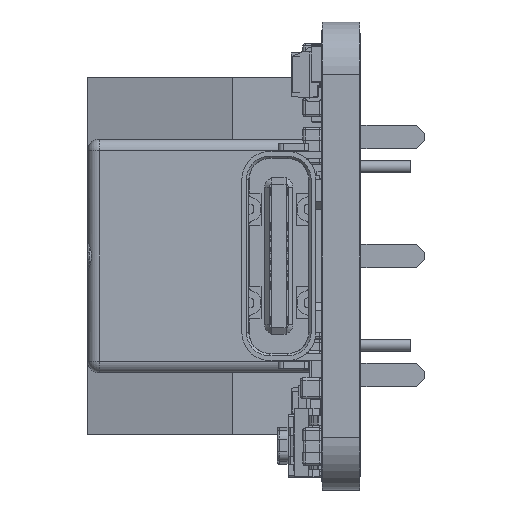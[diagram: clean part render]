
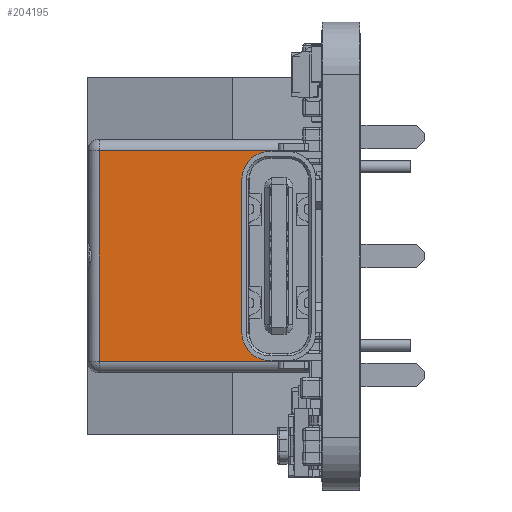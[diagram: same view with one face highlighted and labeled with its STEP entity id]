
A CAD part, left-side view. The second image highlights one B-rep face of the part: STEP entity #204195.
In plain terms, the highlighted planar face has unit normal (-1, 0, 0).
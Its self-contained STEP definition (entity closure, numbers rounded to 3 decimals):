
#2351 = DIRECTION ( 'NONE',  ( 0., 0., 1. ) ) ;
#2375 = CARTESIAN_POINT ( 'NONE',  ( -10., 0., -5. ) ) ;
#3591 = VECTOR ( 'NONE', #2351, 1000. ) ;
#3665 = LINE ( 'NONE', #2375, #3591 ) ;
#11222 = VECTOR ( 'NONE', #13834, 1000. ) ;
#11253 = LINE ( 'NONE', #13833, #11222 ) ;
#12562 = VECTOR ( 'NONE', #14887, 1000. ) ;
#12571 = LINE ( 'NONE', #14872, #12562 ) ;
#13833 = CARTESIAN_POINT ( 'NONE',  ( -10., 10., -4.5 ) ) ;
#13834 = DIRECTION ( 'NONE',  ( 0., -1., 0. ) ) ;
#14872 = CARTESIAN_POINT ( 'NONE',  ( -10., 9.5, -5. ) ) ;
#14887 = DIRECTION ( 'NONE',  ( 0., 0., -1. ) ) ;
#15663 = CARTESIAN_POINT ( 'NONE',  ( -10., 10., 4.5 ) ) ;
#15665 = DIRECTION ( 'NONE',  ( 0., 1., 0. ) ) ;
#28220 = LINE ( 'NONE', #15663, #28233 ) ;
#28233 = VECTOR ( 'NONE', #15665, 1000. ) ;
#45804 = VERTEX_POINT ( 'NONE', #124262 ) ;
#45860 = VERTEX_POINT ( 'NONE', #124341 ) ;
#45867 = VERTEX_POINT ( 'NONE', #124310 ) ;
#45926 = VERTEX_POINT ( 'NONE', #124390 ) ;
#65064 = EDGE_LOOP ( 'NONE', ( #181113, #180999, #181052, #180904 ) ) ;
#124262 = CARTESIAN_POINT ( 'NONE',  ( -10., 9.5, 4.5 ) ) ;
#124310 = CARTESIAN_POINT ( 'NONE',  ( -10., 9.5, -4.5 ) ) ;
#124341 = CARTESIAN_POINT ( 'NONE',  ( -10., 0., -4.5 ) ) ;
#124390 = CARTESIAN_POINT ( 'NONE',  ( -10., 0., 4.5 ) ) ;
#180904 = ORIENTED_EDGE ( 'NONE', *, *, #206256, .T. ) ;
#180999 = ORIENTED_EDGE ( 'NONE', *, *, #206046, .T. ) ;
#181052 = ORIENTED_EDGE ( 'NONE', *, *, #205807, .T. ) ;
#181113 = ORIENTED_EDGE ( 'NONE', *, *, #206163, .T. ) ;
#181188 = PLANE ( 'NONE',  #194538 ) ;
#181190 = CARTESIAN_POINT ( 'NONE',  ( -10., 10., -5. ) ) ;
#181192 = DIRECTION ( 'NONE',  ( 0., 0., -1. ) ) ;
#181195 = DIRECTION ( 'NONE',  ( 1., 0., 0. ) ) ;
#183756 = FACE_OUTER_BOUND ( 'NONE', #65064, .T. ) ;
#194538 = AXIS2_PLACEMENT_3D ( 'NONE', #181190, #181195, #181192 ) ;
#204195 = ADVANCED_FACE ( 'NONE', ( #183756 ), #181188, .F. ) ;
#205807 = EDGE_CURVE ( 'NONE', #45860, #45926, #3665, .T. ) ;
#206046 = EDGE_CURVE ( 'NONE', #45867, #45860, #11253, .T. ) ;
#206163 = EDGE_CURVE ( 'NONE', #45804, #45867, #12571, .T. ) ;
#206256 = EDGE_CURVE ( 'NONE', #45926, #45804, #28220, .T. ) ;
